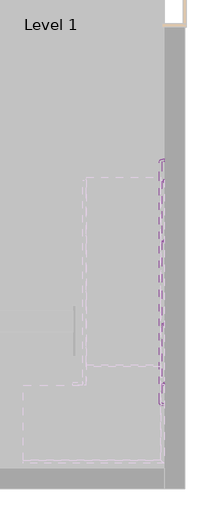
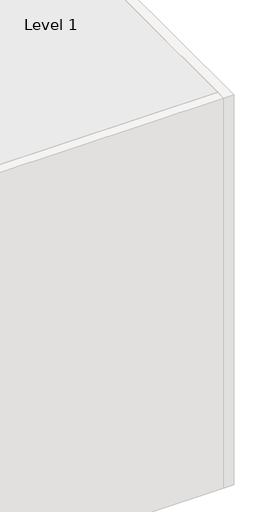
# One storey, part 21 of 27: 1 railing.
"""IFC4 building model written with IfcOpenShell, lengths in millimetres."""

from ifc_helpers import new_model, si_unit, point, frame, frame_2d, origin, place, context, project, spatial, circle_curve, ellipse_curve, trimmed, segment, composite_curve, outline, extrude, element, save
from ifc_brep_helpers import plane_surface, cylinder_surface, revolved_surface, advanced_brep

model = new_model("IFC4")

# Units and contexts
model_context = context("Model", 3, world=origin())
ifc_project = project(units=[si_unit("LENGTHUNIT", "METRE", prefix="MILLI")], contexts=[model_context])

# Site, building, storey
site = spatial("IfcSite", under=ifc_project)
building = spatial("IfcBuilding", under=site)
storey = spatial("IfcBuildingStorey", under=building, Name="Level 1", Elevation=0.0)

# Railing
placement = place(None, origin())
element("IfcRailing", 1, ObjectType="Handrail - Pipe - Wall-Ramp", at=placement, inside=storey, context=model_context, shape_type="SolidModel", body=[
    advanced_brep(
    [(56623.7173382, -22282.0387746, 6597.3444752), (56661.8173382, -22282.0387746, 6597.3444752), (56623.7173382, -19265.7006057, 8491.9039863), (56661.8173382, -19265.7006057, 8491.9039863)],
    [
        (0, 1, ellipse_curve(frame((56642.7673382, -22282.0387746, 6597.3444752), z_axis=(0.0, -1.0, 0.0), x_axis=(0.0, 0.0, -1.0)), 22.496014, 19.05)),
        (1, 0, ellipse_curve(frame((56642.7673382, -22282.0387746, 6597.3444752), z_axis=(0.0, -1.0, 0.0), x_axis=(0.0, 0.0, -1.0)), 22.496014, 19.05)),
        (2, 3, ellipse_curve(frame((56642.7673382, -19265.7006057, 8491.9039863), z_axis=(0.0, 1.0, 0.0), x_axis=(0.0, 0.0, -1.0)), 22.496014, 19.05)),
        (3, 2, ellipse_curve(frame((56642.7673382, -19265.7006057, 8491.9039863), z_axis=(0.0, 1.0, 0.0), x_axis=(0.0, 0.0, -1.0)), 22.496014, 19.05)),
        (0, 2),
        (3, 1),
    ],
    [
        plane_surface(frame((56642.7673382, -22282.0387746, 6619.8404892), z_axis=(0.0, -1.0, 0.0), x_axis=(0.0, 0.0, 1.0))),
        plane_surface(frame((56642.7673382, -19265.7006057, 8514.4000003), z_axis=(0.0, 1.0, 0.0), x_axis=(0.0, 0.0, 1.0))),
        cylinder_surface(frame((56642.7673382, -22271.9063681, 6603.7086314), z_axis=(0.0, -0.8468166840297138, -0.5318848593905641), x_axis=(1.0, 0.0, 0.0)), 19.05),
    ],
    [
        (0, [[1, 2]]),
        (1, [[3, 4]]),
        (2, [[-1, 5, -4, 6]]),
        (2, [[-2, -6, -3, -5]]),
    ],
),
    advanced_brep(
    [(56642.7173382, -20170.6196902, 7935.959501), (56642.7173382, -20157.9196902, 7935.959501), (56642.7173382, -20170.6196902, 7878.809501), (56642.7173382, -20157.9196902, 7878.809501), (56661.7673382, -20157.9196902, 7859.759501), (56661.7673382, -20170.6196902, 7859.759501), (56690.3423382, -20170.6196902, 7859.759501), (56690.3423382, -20157.9196902, 7859.759501)],
    [
        (0, 1, circle_curve(frame((56642.7173382, -20164.2696902, 7935.959501), z_axis=(0.0, 0.0, 1.0), x_axis=(0.0, 1.0, 0.0)), 6.35)),
        (1, 0, circle_curve(frame((56642.7173382, -20164.2696902, 7935.959501), z_axis=(0.0, 0.0, 1.0), x_axis=(0.0, 1.0, 0.0)), 6.35)),
        (0, 2),
        (2, 3, circle_curve(frame((56642.7173382, -20164.2696902, 7878.809501), z_axis=(0.0, 0.0, 1.0), x_axis=(0.0, 1.0, 0.0)), 6.35)),
        (3, 1),
        (3, 2, circle_curve(frame((56642.7173382, -20164.2696902, 7878.809501), z_axis=(0.0, 0.0, 1.0), x_axis=(0.0, 1.0, 0.0)), 6.35)),
        (4, 3, circle_curve(frame((56661.7673382, -20157.9196902, 7878.809501), z_axis=(0.0, 1.0, 0.0), x_axis=(-1.0, 0.0, 0.0)), 19.05)),
        (2, 5, circle_curve(frame((56661.7673382, -20170.6196902, 7878.809501), z_axis=(0.0, -1.0, 0.0), x_axis=(-1.0, 0.0, 0.0)), 19.05)),
        (5, 4, circle_curve(frame((56661.7673382, -20164.2696902, 7859.759501), z_axis=(-1.0, 0.0, 0.0), x_axis=(0.0, 1.0, 0.0)), 6.35)),
        (4, 5, circle_curve(frame((56661.7673382, -20164.2696902, 7859.759501), z_axis=(-1.0, 0.0, 0.0), x_axis=(0.0, 1.0, 0.0)), 6.35)),
        (6, 7, circle_curve(frame((56690.3423382, -20164.2696902, 7859.759501), z_axis=(1.0, 0.0, 0.0), x_axis=(0.0, 1.0, 0.0)), 6.35)),
        (7, 6, circle_curve(frame((56690.3423382, -20164.2696902, 7859.759501), z_axis=(1.0, 0.0, 0.0), x_axis=(0.0, 1.0, 0.0)), 6.35)),
        (5, 6),
        (7, 4),
    ],
    [
        plane_surface(frame((56642.7173382, -20157.9196902, 7935.959501), z_axis=(0.0, 0.0, 1.0), x_axis=(1.0, 0.0, 0.0))),
        cylinder_surface(frame((56642.7173382, -20164.2696902, 7935.959501), z_axis=(0.0, 0.0, 1.0), x_axis=(0.0, 1.0, 0.0)), 6.35),
        revolved_surface(trimmed(ellipse_curve(frame((56642.7173382, -20164.2696902, 7878.809501), z_axis=(0.0, 0.0, 1.0), x_axis=(0.0, 1.0, 0.0)), 6.35, 6.35), [point((56642.7173382, -20170.6196902, 7878.809501))], [point((56642.7173382, -20157.9196902, 7878.809501))], True, "CARTESIAN"), (56661.7673382, -20164.2696902, 7878.809501), (0.0, -1.0, 0.0)),
        revolved_surface(trimmed(ellipse_curve(frame((56642.7173382, -20164.2696902, 7878.809501), z_axis=(0.0, 0.0, 1.0), x_axis=(0.0, 1.0, 0.0)), 6.35, 6.35), [point((56642.7173382, -20157.9196902, 7878.809501))], [point((56642.7173382, -20170.6196902, 7878.809501))], True, "CARTESIAN"), (56661.7673382, -20164.2696902, 7878.809501), (0.0, -1.0, 0.0)),
        plane_surface(frame((56690.3423382, -20164.2696902, 7853.409501), z_axis=(1.0, 0.0, 0.0), x_axis=(0.0, 1.0, 0.0))),
        cylinder_surface(frame((56661.7673382, -20164.2696902, 7859.759501), z_axis=(-1.0, 0.0, 0.0), x_axis=(0.0, 1.0, 0.0)), 6.35),
    ],
    [
        (0, [[1, 2]]),
        (1, [[-1, 3, 4, 5]]),
        (1, [[-2, -5, 6, -3]]),
        (2, [[7, -4, 8, 9]]),
        (3, [[-8, -6, -7, 10]]),
        (4, [[11, 12]]),
        (5, [[-9, 13, -12, 14]]),
        (5, [[-10, -14, -11, -13]]),
    ],
),
    extrude(outline(composite_curve([segment(trimmed(circle_curve(frame_2d((-20164.2696902, 7859.759501)), 25.4), [point((-20138.8696902, 7859.759501))], [point((-20189.6696902, 7859.759501))], False, "CARTESIAN"), True, "CONTINUOUS"), segment(trimmed(circle_curve(frame_2d((-20164.2696902, 7859.759501)), 25.4), [point((-20189.6696902, 7859.759501))], [point((-20138.8696902, 7859.759501))], False, "CARTESIAN"), True, "CONTINUOUS")], self_intersect=False)), frame((56690.3423382, 0.0, 0.0), z_axis=(1.0, 0.0, 0.0), x_axis=(0.0, 1.0, 0.0)), (0.0, 0.0, 1.0), 9.525),
    advanced_brep(
    [(56642.7173382, -21389.8196902, 7170.1809886), (56642.7173382, -21377.1196902, 7170.1809886), (56642.7173382, -21389.8196902, 7113.0309886), (56642.7173382, -21377.1196902, 7113.0309886), (56661.7673382, -21377.1196902, 7093.9809886), (56661.7673382, -21389.8196902, 7093.9809886), (56690.3423382, -21389.8196902, 7093.9809886), (56690.3423382, -21377.1196902, 7093.9809886)],
    [
        (0, 1, circle_curve(frame((56642.7173382, -21383.4696902, 7170.1809886), z_axis=(0.0, 0.0, 1.0), x_axis=(0.0, 1.0, 0.0)), 6.35)),
        (1, 0, circle_curve(frame((56642.7173382, -21383.4696902, 7170.1809886), z_axis=(0.0, 0.0, 1.0), x_axis=(0.0, 1.0, 0.0)), 6.35)),
        (0, 2),
        (2, 3, circle_curve(frame((56642.7173382, -21383.4696902, 7113.0309886), z_axis=(0.0, 0.0, 1.0), x_axis=(0.0, 1.0, 0.0)), 6.35)),
        (3, 1),
        (3, 2, circle_curve(frame((56642.7173382, -21383.4696902, 7113.0309886), z_axis=(0.0, 0.0, 1.0), x_axis=(0.0, 1.0, 0.0)), 6.35)),
        (4, 3, circle_curve(frame((56661.7673382, -21377.1196902, 7113.0309886), z_axis=(0.0, 1.0, 0.0), x_axis=(-1.0, 0.0, 0.0)), 19.05)),
        (2, 5, circle_curve(frame((56661.7673382, -21389.8196902, 7113.0309886), z_axis=(0.0, -1.0, 0.0), x_axis=(-1.0, 0.0, 0.0)), 19.05)),
        (5, 4, circle_curve(frame((56661.7673382, -21383.4696902, 7093.9809886), z_axis=(-1.0, 0.0, 0.0), x_axis=(0.0, 1.0, 0.0)), 6.35)),
        (4, 5, circle_curve(frame((56661.7673382, -21383.4696902, 7093.9809886), z_axis=(-1.0, 0.0, 0.0), x_axis=(0.0, 1.0, 0.0)), 6.35)),
        (6, 7, circle_curve(frame((56690.3423382, -21383.4696902, 7093.9809886), z_axis=(1.0, 0.0, 0.0), x_axis=(0.0, 1.0, 0.0)), 6.35)),
        (7, 6, circle_curve(frame((56690.3423382, -21383.4696902, 7093.9809886), z_axis=(1.0, 0.0, 0.0), x_axis=(0.0, 1.0, 0.0)), 6.35)),
        (5, 6),
        (7, 4),
    ],
    [
        plane_surface(frame((56642.7173382, -21377.1196902, 7170.1809886), z_axis=(0.0, 0.0, 1.0), x_axis=(1.0, 0.0, 0.0))),
        cylinder_surface(frame((56642.7173382, -21383.4696902, 7170.1809886), z_axis=(0.0, 0.0, 1.0), x_axis=(0.0, 1.0, 0.0)), 6.35),
        revolved_surface(trimmed(ellipse_curve(frame((56642.7173382, -21383.4696902, 7113.0309886), z_axis=(0.0, 0.0, 1.0), x_axis=(0.0, 1.0, 0.0)), 6.35, 6.35), [point((56642.7173382, -21389.8196902, 7113.0309886))], [point((56642.7173382, -21377.1196902, 7113.0309886))], True, "CARTESIAN"), (56661.7673382, -21383.4696902, 7113.0309886), (0.0, -1.0, 0.0)),
        revolved_surface(trimmed(ellipse_curve(frame((56642.7173382, -21383.4696902, 7113.0309886), z_axis=(0.0, 0.0, 1.0), x_axis=(0.0, 1.0, 0.0)), 6.35, 6.35), [point((56642.7173382, -21377.1196902, 7113.0309886))], [point((56642.7173382, -21389.8196902, 7113.0309886))], True, "CARTESIAN"), (56661.7673382, -21383.4696902, 7113.0309886), (0.0, -1.0, 0.0)),
        plane_surface(frame((56690.3423382, -21383.4696902, 7087.6309886), z_axis=(1.0, 0.0, 0.0), x_axis=(0.0, 1.0, 0.0))),
        cylinder_surface(frame((56661.7673382, -21383.4696902, 7093.9809886), z_axis=(-1.0, 0.0, 0.0), x_axis=(0.0, 1.0, 0.0)), 6.35),
    ],
    [
        (0, [[1, 2]]),
        (1, [[-1, 3, 4, 5]]),
        (1, [[-2, -5, 6, -3]]),
        (2, [[7, -4, 8, 9]]),
        (3, [[-8, -6, -7, 10]]),
        (4, [[11, 12]]),
        (5, [[-9, 13, -12, 14]]),
        (5, [[-10, -14, -11, -13]]),
    ],
),
    extrude(outline(composite_curve([segment(trimmed(circle_curve(frame_2d((-21383.4696902, 7093.9809886)), 25.4), [point((-21358.0696902, 7093.9809886))], [point((-21408.8696902, 7093.9809886))], False, "CARTESIAN"), True, "CONTINUOUS"), segment(trimmed(circle_curve(frame_2d((-21383.4696902, 7093.9809886)), 25.4), [point((-21408.8696902, 7093.9809886))], [point((-21358.0696902, 7093.9809886))], False, "CARTESIAN"), True, "CONTINUOUS")], self_intersect=False)), frame((56690.3423382, 0.0, 0.0), z_axis=(1.0, 0.0, 0.0), x_axis=(0.0, 1.0, 0.0)), (0.0, 0.0, 1.0), 9.525),
    advanced_brep(
    [(56661.7673382, -19278.4006057, 8490.3731408), (56623.6673382, -19278.4006057, 8490.3731408), (56661.7673382, -19011.7006057, 8490.3731408), (56623.6673382, -19011.7006057, 8490.3731408), (56699.8673382, -18992.6506057, 8490.3731408), (56699.8673382, -18954.5506057, 8490.3731408), (56680.8173382, -18954.5506057, 8490.3731408), (56680.8173382, -18992.6506057, 8490.3731408)],
    [
        (0, 1, circle_curve(frame((56642.7173382, -19278.4006057, 8490.3731408), z_axis=(0.0, -1.0, 0.0), x_axis=(-1.0, 0.0, 0.0)), 19.05)),
        (1, 0, circle_curve(frame((56642.7173382, -19278.4006057, 8490.3731408), z_axis=(0.0, -1.0, 0.0), x_axis=(-1.0, 0.0, 0.0)), 19.05)),
        (0, 2),
        (2, 3, circle_curve(frame((56642.7173382, -19011.7006057, 8490.3731408), z_axis=(0.0, -1.0, 0.0), x_axis=(-1.0, 0.0, 0.0)), 19.05)),
        (3, 1),
        (3, 2, circle_curve(frame((56642.7173382, -19011.7006057, 8490.3731408), z_axis=(0.0, -1.0, 0.0), x_axis=(-1.0, 0.0, 0.0)), 19.05)),
        (4, 5, circle_curve(frame((56699.8673382, -18973.6006057, 8490.3731408), z_axis=(1.0, 0.0, 0.0), x_axis=(0.0, 1.0, 0.0)), 19.05)),
        (5, 4, circle_curve(frame((56699.8673382, -18973.6006057, 8490.3731408), z_axis=(1.0, 0.0, 0.0), x_axis=(0.0, 1.0, 0.0)), 19.05)),
        (6, 7, circle_curve(frame((56680.8173382, -18973.6006057, 8490.3731408), z_axis=(1.0, 0.0, 0.0), x_axis=(0.0, 1.0, 0.0)), 19.05)),
        (7, 4),
        (5, 6),
        (7, 6, circle_curve(frame((56680.8173382, -18973.6006057, 8490.3731408), z_axis=(1.0, 0.0, 0.0), x_axis=(0.0, 1.0, 0.0)), 19.05)),
        (6, 3, circle_curve(frame((56680.8173382, -19011.7006057, 8490.3731408), z_axis=(0.0, 0.0, 1.0), x_axis=(-1.0, 0.0, 0.0)), 57.15)),
        (2, 7, circle_curve(frame((56680.8173382, -19011.7006057, 8490.3731408), z_axis=(0.0, 0.0, -1.0), x_axis=(-1.0, 0.0, 0.0)), 19.05)),
    ],
    [
        plane_surface(frame((56642.7173382, -19278.4006057, 8490.3731408), z_axis=(0.0, -1.0, 0.0), x_axis=(0.0, 0.0, 1.0))),
        cylinder_surface(frame((56642.7173382, -19278.4006057, 8490.3731408), z_axis=(0.0, -1.0, 0.0), x_axis=(-1.0, 0.0, 0.0)), 19.05),
        plane_surface(frame((56699.8673382, -18973.6006057, 8490.3731408), z_axis=(1.0, 0.0, 0.0), x_axis=(0.0, 0.0, 1.0))),
        cylinder_surface(frame((56680.8173382, -18973.6006057, 8490.3731408), z_axis=(-1.0, 0.0, 0.0), x_axis=(0.0, 1.0, 0.0)), 19.05),
        revolved_surface(trimmed(ellipse_curve(frame((56642.7173382, -19011.7006057, 8490.3731408), z_axis=(0.0, -1.0, 0.0), x_axis=(-1.0, 0.0, 0.0)), 19.05, 19.05), [point((56661.7673382, -19011.7006057, 8490.3731408))], [point((56623.6673382, -19011.7006057, 8490.3731408))], True, "CARTESIAN"), (56680.8173382, -19011.7006057, 8490.3731408), (0.0, 0.0, -1.0)),
        revolved_surface(trimmed(ellipse_curve(frame((56642.7173382, -19011.7006057, 8490.3731408), z_axis=(0.0, -1.0, 0.0), x_axis=(-1.0, 0.0, 0.0)), 19.05, 19.05), [point((56623.6673382, -19011.7006057, 8490.3731408))], [point((56661.7673382, -19011.7006057, 8490.3731408))], True, "CARTESIAN"), (56680.8173382, -19011.7006057, 8490.3731408), (0.0, 0.0, -1.0)),
    ],
    [
        (0, [[1, 2]]),
        (1, [[-1, 3, 4, 5]]),
        (1, [[-2, -5, 6, -3]]),
        (2, [[7, 8]]),
        (3, [[9, 10, -8, 11]]),
        (3, [[12, -11, -7, -10]]),
        (4, [[13, -4, 14, -9]]),
        (5, [[-14, -6, -13, -12]]),
    ],
),
    advanced_brep(
    [(56690.3423382, -19278.4006057, 8407.8231408), (56690.3423382, -19278.4006057, 8420.5231408), (56661.7673382, -19278.4006057, 8407.8231408), (56661.7673382, -19278.4006057, 8420.5231408), (56636.3673382, -19278.4006057, 8490.3731408), (56649.0673382, -19278.4006057, 8490.3731408), (56649.0673382, -19278.4006057, 8433.2231408), (56636.3673382, -19278.4006057, 8433.2231408)],
    [
        (0, 1, circle_curve(frame((56690.3423382, -19278.4006057, 8414.1731408), z_axis=(1.0, 0.0, 0.0), x_axis=(0.0, 0.0, 1.0)), 6.35)),
        (1, 0, circle_curve(frame((56690.3423382, -19278.4006057, 8414.1731408), z_axis=(1.0, 0.0, 0.0), x_axis=(0.0, 0.0, 1.0)), 6.35)),
        (0, 2),
        (2, 3, circle_curve(frame((56661.7673382, -19278.4006057, 8414.1731408), z_axis=(1.0, 0.0, 0.0), x_axis=(0.0, 0.0, 1.0)), 6.35)),
        (3, 1),
        (3, 2, circle_curve(frame((56661.7673382, -19278.4006057, 8414.1731408), z_axis=(1.0, 0.0, 0.0), x_axis=(0.0, 0.0, 1.0)), 6.35)),
        (4, 5, circle_curve(frame((56642.7173382, -19278.4006057, 8490.3731408), z_axis=(0.0, 0.0, 1.0), x_axis=(1.0, 0.0, 0.0)), 6.35)),
        (5, 4, circle_curve(frame((56642.7173382, -19278.4006057, 8490.3731408), z_axis=(0.0, 0.0, 1.0), x_axis=(1.0, 0.0, 0.0)), 6.35)),
        (6, 7, circle_curve(frame((56642.7173382, -19278.4006057, 8433.2231408), z_axis=(0.0, 0.0, 1.0), x_axis=(1.0, 0.0, 0.0)), 6.35)),
        (7, 4),
        (5, 6),
        (7, 6, circle_curve(frame((56642.7173382, -19278.4006057, 8433.2231408), z_axis=(0.0, 0.0, 1.0), x_axis=(1.0, 0.0, 0.0)), 6.35)),
        (6, 3, circle_curve(frame((56661.7673382, -19278.4006057, 8433.2231408), z_axis=(0.0, -1.0, 0.0), x_axis=(0.0, 0.0, -1.0)), 12.7)),
        (2, 7, circle_curve(frame((56661.7673382, -19278.4006057, 8433.2231408), z_axis=(0.0, 1.0, 0.0), x_axis=(0.0, 0.0, -1.0)), 25.4)),
    ],
    [
        plane_surface(frame((56690.3423382, -19278.4006057, 8414.1731408), z_axis=(1.0, 0.0, 0.0), x_axis=(0.0, 1.0, 0.0))),
        cylinder_surface(frame((56690.3423382, -19278.4006057, 8414.1731408), z_axis=(1.0, 0.0, 0.0), x_axis=(0.0, 0.0, 1.0)), 6.35),
        plane_surface(frame((56642.7173382, -19278.4006057, 8490.3731408), z_axis=(0.0, 0.0, 1.0), x_axis=(0.0, 1.0, 0.0))),
        cylinder_surface(frame((56642.7173382, -19278.4006057, 8433.2231408), z_axis=(0.0, 0.0, -1.0), x_axis=(1.0, 0.0, 0.0)), 6.35),
        revolved_surface(trimmed(ellipse_curve(frame((56661.7673382, -19278.4006057, 8414.1731408), z_axis=(1.0, 0.0, 0.0), x_axis=(0.0, 0.0, 1.0)), 6.35, 6.35), [point((56661.7673382, -19278.4006057, 8407.8231408))], [point((56661.7673382, -19278.4006057, 8420.5231408))], True, "CARTESIAN"), (56661.7673382, -19278.4006057, 8433.2231408), (0.0, 1.0, 0.0)),
        revolved_surface(trimmed(ellipse_curve(frame((56661.7673382, -19278.4006057, 8414.1731408), z_axis=(1.0, 0.0, 0.0), x_axis=(0.0, 0.0, 1.0)), 6.35, 6.35), [point((56661.7673382, -19278.4006057, 8420.5231408))], [point((56661.7673382, -19278.4006057, 8407.8231408))], True, "CARTESIAN"), (56661.7673382, -19278.4006057, 8433.2231408), (0.0, 1.0, 0.0)),
    ],
    [
        (0, [[1, 2]]),
        (1, [[-1, 3, 4, 5]]),
        (1, [[-2, -5, 6, -3]]),
        (2, [[7, 8]]),
        (3, [[9, 10, -8, 11]]),
        (3, [[12, -11, -7, -10]]),
        (4, [[13, -4, 14, -9]]),
        (5, [[-14, -6, -13, -12]]),
    ],
),
    extrude(outline(composite_curve([segment(trimmed(circle_curve(frame_2d((-19278.4006057, 8414.1731408)), 25.4), [point((-19253.0006057, 8414.1731408))], [point((-19303.8006057, 8414.1731408))], False, "CARTESIAN"), True, "CONTINUOUS"), segment(trimmed(circle_curve(frame_2d((-19278.4006057, 8414.1731408)), 25.4), [point((-19303.8006057, 8414.1731408))], [point((-19253.0006057, 8414.1731408))], False, "CARTESIAN"), True, "CONTINUOUS")], self_intersect=False)), frame((56690.3423382, 0.0, 0.0), z_axis=(1.0, 0.0, 0.0), x_axis=(0.0, 1.0, 0.0)), (0.0, 0.0, 1.0), 9.525),
    advanced_brep(
    [(56699.8673382, -22555.0887746, 6611.7673487), (56699.8673382, -22593.1887746, 6611.7673487), (56680.8173382, -22555.0887746, 6611.7673487), (56680.8173382, -22593.1887746, 6611.7673487), (56623.6673382, -22536.0387746, 6611.7673487), (56661.7673382, -22536.0387746, 6611.7673487), (56661.7673382, -22269.3387746, 6611.7673487), (56623.6673382, -22269.3387746, 6611.7673487)],
    [
        (0, 1, circle_curve(frame((56699.8673382, -22574.1387746, 6611.7673487), z_axis=(1.0, 0.0, 0.0), x_axis=(0.0, -1.0, 0.0)), 19.05)),
        (1, 0, circle_curve(frame((56699.8673382, -22574.1387746, 6611.7673487), z_axis=(1.0, 0.0, 0.0), x_axis=(0.0, -1.0, 0.0)), 19.05)),
        (0, 2),
        (2, 3, circle_curve(frame((56680.8173382, -22574.1387746, 6611.7673487), z_axis=(1.0, 0.0, 0.0), x_axis=(0.0, -1.0, 0.0)), 19.05)),
        (3, 1),
        (3, 2, circle_curve(frame((56680.8173382, -22574.1387746, 6611.7673487), z_axis=(1.0, 0.0, 0.0), x_axis=(0.0, -1.0, 0.0)), 19.05)),
        (4, 3, circle_curve(frame((56680.8173382, -22536.0387746, 6611.7673487), z_axis=(0.0, 0.0, 1.0), x_axis=(0.0, -1.0, 0.0)), 57.15)),
        (2, 5, circle_curve(frame((56680.8173382, -22536.0387746, 6611.7673487), z_axis=(0.0, 0.0, -1.0), x_axis=(0.0, -1.0, 0.0)), 19.05)),
        (5, 4, circle_curve(frame((56642.7173382, -22536.0387746, 6611.7673487), z_axis=(0.0, -1.0, 0.0), x_axis=(-1.0, 0.0, 0.0)), 19.05)),
        (4, 5, circle_curve(frame((56642.7173382, -22536.0387746, 6611.7673487), z_axis=(0.0, -1.0, 0.0), x_axis=(-1.0, 0.0, 0.0)), 19.05)),
        (6, 7, circle_curve(frame((56642.7173382, -22269.3387746, 6611.7673487), z_axis=(0.0, 1.0, 0.0), x_axis=(-1.0, 0.0, 0.0)), 19.05)),
        (7, 6, circle_curve(frame((56642.7173382, -22269.3387746, 6611.7673487), z_axis=(0.0, 1.0, 0.0), x_axis=(-1.0, 0.0, 0.0)), 19.05)),
        (5, 6),
        (7, 4),
    ],
    [
        plane_surface(frame((56699.8673382, -22574.1387746, 6611.7673487), z_axis=(1.0, 0.0, 0.0), x_axis=(0.0, 0.0, 1.0))),
        cylinder_surface(frame((56699.8673382, -22574.1387746, 6611.7673487), z_axis=(1.0, 0.0, 0.0), x_axis=(0.0, -1.0, 0.0)), 19.05),
        revolved_surface(trimmed(ellipse_curve(frame((56680.8173382, -22574.1387746, 6611.7673487), z_axis=(1.0, 0.0, 0.0), x_axis=(0.0, -1.0, 0.0)), 19.05, 19.05), [point((56680.8173382, -22555.0887746, 6611.7673487))], [point((56680.8173382, -22593.1887746, 6611.7673487))], True, "CARTESIAN"), (56680.8173382, -22536.0387746, 6611.7673487), (0.0, 0.0, -1.0)),
        revolved_surface(trimmed(ellipse_curve(frame((56680.8173382, -22574.1387746, 6611.7673487), z_axis=(1.0, 0.0, 0.0), x_axis=(0.0, -1.0, 0.0)), 19.05, 19.05), [point((56680.8173382, -22593.1887746, 6611.7673487))], [point((56680.8173382, -22555.0887746, 6611.7673487))], True, "CARTESIAN"), (56680.8173382, -22536.0387746, 6611.7673487), (0.0, 0.0, -1.0)),
        plane_surface(frame((56642.7173382, -22269.3387746, 6611.7673487), z_axis=(0.0, 1.0, 0.0), x_axis=(0.0, 0.0, 1.0))),
        cylinder_surface(frame((56642.7173382, -22536.0387746, 6611.7673487), z_axis=(0.0, -1.0, 0.0), x_axis=(-1.0, 0.0, 0.0)), 19.05),
    ],
    [
        (0, [[1, 2]]),
        (1, [[-1, 3, 4, 5]]),
        (1, [[-2, -5, 6, -3]]),
        (2, [[7, -4, 8, 9]]),
        (3, [[-8, -6, -7, 10]]),
        (4, [[11, 12]]),
        (5, [[-9, 13, -12, 14]]),
        (5, [[-10, -14, -11, -13]]),
    ],
),
    advanced_brep(
    [(56690.3423382, -22269.3387746, 6529.2173487), (56690.3423382, -22269.3387746, 6541.9173487), (56661.7673382, -22269.3387746, 6529.2173487), (56661.7673382, -22269.3387746, 6541.9173487), (56649.0673382, -22269.3387746, 6554.6173487), (56636.3673382, -22269.3387746, 6554.6173487), (56636.3673382, -22269.3387746, 6611.7673487), (56649.0673382, -22269.3387746, 6611.7673487)],
    [
        (0, 1, circle_curve(frame((56690.3423382, -22269.3387746, 6535.5673487), z_axis=(1.0, 0.0, 0.0), x_axis=(0.0, 0.0, 1.0)), 6.35)),
        (1, 0, circle_curve(frame((56690.3423382, -22269.3387746, 6535.5673487), z_axis=(1.0, 0.0, 0.0), x_axis=(0.0, 0.0, 1.0)), 6.35)),
        (0, 2),
        (2, 3, circle_curve(frame((56661.7673382, -22269.3387746, 6535.5673487), z_axis=(1.0, 0.0, 0.0), x_axis=(0.0, 0.0, 1.0)), 6.35)),
        (3, 1),
        (3, 2, circle_curve(frame((56661.7673382, -22269.3387746, 6535.5673487), z_axis=(1.0, 0.0, 0.0), x_axis=(0.0, 0.0, 1.0)), 6.35)),
        (4, 3, circle_curve(frame((56661.7673382, -22269.3387746, 6554.6173487), z_axis=(0.0, -1.0, 0.0), x_axis=(0.0, 0.0, -1.0)), 12.7)),
        (2, 5, circle_curve(frame((56661.7673382, -22269.3387746, 6554.6173487), z_axis=(0.0, 1.0, 0.0), x_axis=(0.0, 0.0, -1.0)), 25.4)),
        (5, 4, circle_curve(frame((56642.7173382, -22269.3387746, 6554.6173487), z_axis=(0.0, 0.0, -1.0), x_axis=(1.0, 0.0, 0.0)), 6.35)),
        (4, 5, circle_curve(frame((56642.7173382, -22269.3387746, 6554.6173487), z_axis=(0.0, 0.0, -1.0), x_axis=(1.0, 0.0, 0.0)), 6.35)),
        (6, 7, circle_curve(frame((56642.7173382, -22269.3387746, 6611.7673487), z_axis=(0.0, 0.0, 1.0), x_axis=(1.0, 0.0, 0.0)), 6.35)),
        (7, 6, circle_curve(frame((56642.7173382, -22269.3387746, 6611.7673487), z_axis=(0.0, 0.0, 1.0), x_axis=(1.0, 0.0, 0.0)), 6.35)),
        (5, 6),
        (7, 4),
    ],
    [
        plane_surface(frame((56690.3423382, -22269.3387746, 6535.5673487), z_axis=(1.0, 0.0, 0.0), x_axis=(0.0, 1.0, 0.0))),
        cylinder_surface(frame((56690.3423382, -22269.3387746, 6535.5673487), z_axis=(1.0, 0.0, 0.0), x_axis=(0.0, 0.0, 1.0)), 6.35),
        revolved_surface(trimmed(ellipse_curve(frame((56661.7673382, -22269.3387746, 6535.5673487), z_axis=(1.0, 0.0, 0.0), x_axis=(0.0, 0.0, 1.0)), 6.35, 6.35), [point((56661.7673382, -22269.3387746, 6529.2173487))], [point((56661.7673382, -22269.3387746, 6541.9173487))], True, "CARTESIAN"), (56661.7673382, -22269.3387746, 6554.6173487), (0.0, 1.0, 0.0)),
        revolved_surface(trimmed(ellipse_curve(frame((56661.7673382, -22269.3387746, 6535.5673487), z_axis=(1.0, 0.0, 0.0), x_axis=(0.0, 0.0, 1.0)), 6.35, 6.35), [point((56661.7673382, -22269.3387746, 6541.9173487))], [point((56661.7673382, -22269.3387746, 6529.2173487))], True, "CARTESIAN"), (56661.7673382, -22269.3387746, 6554.6173487), (0.0, 1.0, 0.0)),
        plane_surface(frame((56642.7173382, -22269.3387746, 6611.7673487), z_axis=(0.0, 0.0, 1.0), x_axis=(0.0, 1.0, 0.0))),
        cylinder_surface(frame((56642.7173382, -22269.3387746, 6554.6173487), z_axis=(0.0, 0.0, -1.0), x_axis=(1.0, 0.0, 0.0)), 6.35),
    ],
    [
        (0, [[1, 2]]),
        (1, [[-1, 3, 4, 5]]),
        (1, [[-2, -5, 6, -3]]),
        (2, [[7, -4, 8, 9]]),
        (3, [[-8, -6, -7, 10]]),
        (4, [[11, 12]]),
        (5, [[-9, 13, -12, 14]]),
        (5, [[-10, -14, -11, -13]]),
    ],
),
    extrude(outline(composite_curve([segment(trimmed(circle_curve(frame_2d((-22269.3387746, 6535.5673487)), 25.4), [point((-22243.9387746, 6535.5673487))], [point((-22294.7387746, 6535.5673487))], False, "CARTESIAN"), True, "CONTINUOUS"), segment(trimmed(circle_curve(frame_2d((-22269.3387746, 6535.5673487)), 25.4), [point((-22294.7387746, 6535.5673487))], [point((-22243.9387746, 6535.5673487))], False, "CARTESIAN"), True, "CONTINUOUS")], self_intersect=False)), frame((56690.3423382, 0.0, 0.0), z_axis=(1.0, 0.0, 0.0), x_axis=(0.0, 1.0, 0.0)), (0.0, 0.0, 1.0), 9.525),
    advanced_brep(
    [(56623.7173382, -22282.0387746, 2797.3444749), (56661.8173382, -22282.0387746, 2797.3444749), (56623.7173382, -19265.7006057, 4691.903986), (56661.8173382, -19265.7006057, 4691.903986)],
    [
        (0, 1, ellipse_curve(frame((56642.7673382, -22282.0387746, 2797.3444749), z_axis=(0.0, -1.0, 0.0), x_axis=(0.0, 0.0, -1.0)), 22.496014, 19.05)),
        (1, 0, ellipse_curve(frame((56642.7673382, -22282.0387746, 2797.3444749), z_axis=(0.0, -1.0, 0.0), x_axis=(0.0, 0.0, -1.0)), 22.496014, 19.05)),
        (2, 3, ellipse_curve(frame((56642.7673382, -19265.7006057, 4691.903986), z_axis=(0.0, 1.0, 0.0), x_axis=(0.0, 0.0, -1.0)), 22.496014, 19.05)),
        (3, 2, ellipse_curve(frame((56642.7673382, -19265.7006057, 4691.903986), z_axis=(0.0, 1.0, 0.0), x_axis=(0.0, 0.0, -1.0)), 22.496014, 19.05)),
        (0, 2),
        (3, 1),
    ],
    [
        plane_surface(frame((56642.7673382, -22282.0387746, 2819.8404889), z_axis=(0.0, -1.0, 0.0), x_axis=(0.0, 0.0, 1.0))),
        plane_surface(frame((56642.7673382, -19265.7006057, 4714.4), z_axis=(0.0, 1.0, 0.0), x_axis=(0.0, 0.0, 1.0))),
        cylinder_surface(frame((56642.7673382, -22271.9063681, 2803.7086311), z_axis=(0.0, -0.8468166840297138, -0.5318848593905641), x_axis=(1.0, 0.0, 0.0)), 19.05),
    ],
    [
        (0, [[1, 2]]),
        (1, [[3, 4]]),
        (2, [[-1, 5, -4, 6]]),
        (2, [[-2, -6, -3, -5]]),
    ],
),
    advanced_brep(
    [(56642.7173382, -20170.6196902, 4135.9595007), (56642.7173382, -20157.9196902, 4135.9595007), (56642.7173382, -20170.6196902, 4078.8095007), (56642.7173382, -20157.9196902, 4078.8095007), (56661.7673382, -20157.9196902, 4059.7595007), (56661.7673382, -20170.6196902, 4059.7595007), (56690.3423382, -20170.6196902, 4059.7595007), (56690.3423382, -20157.9196902, 4059.7595007)],
    [
        (0, 1, circle_curve(frame((56642.7173382, -20164.2696902, 4135.9595007), z_axis=(0.0, 0.0, 1.0), x_axis=(0.0, 1.0, 0.0)), 6.35)),
        (1, 0, circle_curve(frame((56642.7173382, -20164.2696902, 4135.9595007), z_axis=(0.0, 0.0, 1.0), x_axis=(0.0, 1.0, 0.0)), 6.35)),
        (0, 2),
        (2, 3, circle_curve(frame((56642.7173382, -20164.2696902, 4078.8095007), z_axis=(0.0, 0.0, 1.0), x_axis=(0.0, 1.0, 0.0)), 6.35)),
        (3, 1),
        (3, 2, circle_curve(frame((56642.7173382, -20164.2696902, 4078.8095007), z_axis=(0.0, 0.0, 1.0), x_axis=(0.0, 1.0, 0.0)), 6.35)),
        (4, 3, circle_curve(frame((56661.7673382, -20157.9196902, 4078.8095007), z_axis=(0.0, 1.0, 0.0), x_axis=(-1.0, 0.0, 0.0)), 19.05)),
        (2, 5, circle_curve(frame((56661.7673382, -20170.6196902, 4078.8095007), z_axis=(0.0, -1.0, 0.0), x_axis=(-1.0, 0.0, 0.0)), 19.05)),
        (5, 4, circle_curve(frame((56661.7673382, -20164.2696902, 4059.7595007), z_axis=(-1.0, 0.0, 0.0), x_axis=(0.0, 1.0, 0.0)), 6.35)),
        (4, 5, circle_curve(frame((56661.7673382, -20164.2696902, 4059.7595007), z_axis=(-1.0, 0.0, 0.0), x_axis=(0.0, 1.0, 0.0)), 6.35)),
        (6, 7, circle_curve(frame((56690.3423382, -20164.2696902, 4059.7595007), z_axis=(1.0, 0.0, 0.0), x_axis=(0.0, 1.0, 0.0)), 6.35)),
        (7, 6, circle_curve(frame((56690.3423382, -20164.2696902, 4059.7595007), z_axis=(1.0, 0.0, 0.0), x_axis=(0.0, 1.0, 0.0)), 6.35)),
        (5, 6),
        (7, 4),
    ],
    [
        plane_surface(frame((56642.7173382, -20157.9196902, 4135.9595007), z_axis=(0.0, 0.0, 1.0), x_axis=(1.0, 0.0, 0.0))),
        cylinder_surface(frame((56642.7173382, -20164.2696902, 4135.9595007), z_axis=(0.0, 0.0, 1.0), x_axis=(0.0, 1.0, 0.0)), 6.35),
        revolved_surface(trimmed(ellipse_curve(frame((56642.7173382, -20164.2696902, 4078.8095007), z_axis=(0.0, 0.0, 1.0), x_axis=(0.0, 1.0, 0.0)), 6.35, 6.35), [point((56642.7173382, -20170.6196902, 4078.8095007))], [point((56642.7173382, -20157.9196902, 4078.8095007))], True, "CARTESIAN"), (56661.7673382, -20164.2696902, 4078.8095007), (0.0, -1.0, 0.0)),
        revolved_surface(trimmed(ellipse_curve(frame((56642.7173382, -20164.2696902, 4078.8095007), z_axis=(0.0, 0.0, 1.0), x_axis=(0.0, 1.0, 0.0)), 6.35, 6.35), [point((56642.7173382, -20157.9196902, 4078.8095007))], [point((56642.7173382, -20170.6196902, 4078.8095007))], True, "CARTESIAN"), (56661.7673382, -20164.2696902, 4078.8095007), (0.0, -1.0, 0.0)),
        plane_surface(frame((56690.3423382, -20164.2696902, 4053.4095007), z_axis=(1.0, 0.0, 0.0), x_axis=(0.0, 1.0, 0.0))),
        cylinder_surface(frame((56661.7673382, -20164.2696902, 4059.7595007), z_axis=(-1.0, 0.0, 0.0), x_axis=(0.0, 1.0, 0.0)), 6.35),
    ],
    [
        (0, [[1, 2]]),
        (1, [[-1, 3, 4, 5]]),
        (1, [[-2, -5, 6, -3]]),
        (2, [[7, -4, 8, 9]]),
        (3, [[-8, -6, -7, 10]]),
        (4, [[11, 12]]),
        (5, [[-9, 13, -12, 14]]),
        (5, [[-10, -14, -11, -13]]),
    ],
),
    extrude(outline(composite_curve([segment(trimmed(circle_curve(frame_2d((-20164.2696902, 4059.7595007)), 25.4), [point((-20138.8696902, 4059.7595007))], [point((-20189.6696902, 4059.7595007))], False, "CARTESIAN"), True, "CONTINUOUS"), segment(trimmed(circle_curve(frame_2d((-20164.2696902, 4059.7595007)), 25.4), [point((-20189.6696902, 4059.7595007))], [point((-20138.8696902, 4059.7595007))], False, "CARTESIAN"), True, "CONTINUOUS")], self_intersect=False)), frame((56690.3423382, 0.0, 0.0), z_axis=(1.0, 0.0, 0.0), x_axis=(0.0, 1.0, 0.0)), (0.0, 0.0, 1.0), 9.525),
    advanced_brep(
    [(56642.7173382, -21389.8196902, 3370.1809883), (56642.7173382, -21377.1196902, 3370.1809883), (56642.7173382, -21389.8196902, 3313.0309883), (56642.7173382, -21377.1196902, 3313.0309883), (56661.7673382, -21377.1196902, 3293.9809883), (56661.7673382, -21389.8196902, 3293.9809883), (56690.3423382, -21389.8196902, 3293.9809883), (56690.3423382, -21377.1196902, 3293.9809883)],
    [
        (0, 1, circle_curve(frame((56642.7173382, -21383.4696902, 3370.1809883), z_axis=(0.0, 0.0, 1.0), x_axis=(0.0, 1.0, 0.0)), 6.35)),
        (1, 0, circle_curve(frame((56642.7173382, -21383.4696902, 3370.1809883), z_axis=(0.0, 0.0, 1.0), x_axis=(0.0, 1.0, 0.0)), 6.35)),
        (0, 2),
        (2, 3, circle_curve(frame((56642.7173382, -21383.4696902, 3313.0309883), z_axis=(0.0, 0.0, 1.0), x_axis=(0.0, 1.0, 0.0)), 6.35)),
        (3, 1),
        (3, 2, circle_curve(frame((56642.7173382, -21383.4696902, 3313.0309883), z_axis=(0.0, 0.0, 1.0), x_axis=(0.0, 1.0, 0.0)), 6.35)),
        (4, 3, circle_curve(frame((56661.7673382, -21377.1196902, 3313.0309883), z_axis=(0.0, 1.0, 0.0), x_axis=(-1.0, 0.0, 0.0)), 19.05)),
        (2, 5, circle_curve(frame((56661.7673382, -21389.8196902, 3313.0309883), z_axis=(0.0, -1.0, 0.0), x_axis=(-1.0, 0.0, 0.0)), 19.05)),
        (5, 4, circle_curve(frame((56661.7673382, -21383.4696902, 3293.9809883), z_axis=(-1.0, 0.0, 0.0), x_axis=(0.0, 1.0, 0.0)), 6.35)),
        (4, 5, circle_curve(frame((56661.7673382, -21383.4696902, 3293.9809883), z_axis=(-1.0, 0.0, 0.0), x_axis=(0.0, 1.0, 0.0)), 6.35)),
        (6, 7, circle_curve(frame((56690.3423382, -21383.4696902, 3293.9809883), z_axis=(1.0, 0.0, 0.0), x_axis=(0.0, 1.0, 0.0)), 6.35)),
        (7, 6, circle_curve(frame((56690.3423382, -21383.4696902, 3293.9809883), z_axis=(1.0, 0.0, 0.0), x_axis=(0.0, 1.0, 0.0)), 6.35)),
        (5, 6),
        (7, 4),
    ],
    [
        plane_surface(frame((56642.7173382, -21377.1196902, 3370.1809883), z_axis=(0.0, 0.0, 1.0), x_axis=(1.0, 0.0, 0.0))),
        cylinder_surface(frame((56642.7173382, -21383.4696902, 3370.1809883), z_axis=(0.0, 0.0, 1.0), x_axis=(0.0, 1.0, 0.0)), 6.35),
        revolved_surface(trimmed(ellipse_curve(frame((56642.7173382, -21383.4696902, 3313.0309883), z_axis=(0.0, 0.0, 1.0), x_axis=(0.0, 1.0, 0.0)), 6.35, 6.35), [point((56642.7173382, -21389.8196902, 3313.0309883))], [point((56642.7173382, -21377.1196902, 3313.0309883))], True, "CARTESIAN"), (56661.7673382, -21383.4696902, 3313.0309883), (0.0, -1.0, 0.0)),
        revolved_surface(trimmed(ellipse_curve(frame((56642.7173382, -21383.4696902, 3313.0309883), z_axis=(0.0, 0.0, 1.0), x_axis=(0.0, 1.0, 0.0)), 6.35, 6.35), [point((56642.7173382, -21377.1196902, 3313.0309883))], [point((56642.7173382, -21389.8196902, 3313.0309883))], True, "CARTESIAN"), (56661.7673382, -21383.4696902, 3313.0309883), (0.0, -1.0, 0.0)),
        plane_surface(frame((56690.3423382, -21383.4696902, 3287.6309883), z_axis=(1.0, 0.0, 0.0), x_axis=(0.0, 1.0, 0.0))),
        cylinder_surface(frame((56661.7673382, -21383.4696902, 3293.9809883), z_axis=(-1.0, 0.0, 0.0), x_axis=(0.0, 1.0, 0.0)), 6.35),
    ],
    [
        (0, [[1, 2]]),
        (1, [[-1, 3, 4, 5]]),
        (1, [[-2, -5, 6, -3]]),
        (2, [[7, -4, 8, 9]]),
        (3, [[-8, -6, -7, 10]]),
        (4, [[11, 12]]),
        (5, [[-9, 13, -12, 14]]),
        (5, [[-10, -14, -11, -13]]),
    ],
),
    extrude(outline(composite_curve([segment(trimmed(circle_curve(frame_2d((-21383.4696902, 3293.9809883)), 25.4), [point((-21358.0696902, 3293.9809883))], [point((-21408.8696902, 3293.9809883))], False, "CARTESIAN"), True, "CONTINUOUS"), segment(trimmed(circle_curve(frame_2d((-21383.4696902, 3293.9809883)), 25.4), [point((-21408.8696902, 3293.9809883))], [point((-21358.0696902, 3293.9809883))], False, "CARTESIAN"), True, "CONTINUOUS")], self_intersect=False)), frame((56690.3423382, 0.0, 0.0), z_axis=(1.0, 0.0, 0.0), x_axis=(0.0, 1.0, 0.0)), (0.0, 0.0, 1.0), 9.525),
    advanced_brep(
    [(56661.7673382, -19278.4006057, 4690.3731405), (56623.6673382, -19278.4006057, 4690.3731405), (56661.7673382, -19011.7006057, 4690.3731405), (56623.6673382, -19011.7006057, 4690.3731405), (56699.8673382, -18992.6506057, 4690.3731405), (56699.8673382, -18954.5506057, 4690.3731405), (56680.8173382, -18954.5506057, 4690.3731405), (56680.8173382, -18992.6506057, 4690.3731405)],
    [
        (0, 1, circle_curve(frame((56642.7173382, -19278.4006057, 4690.3731405), z_axis=(0.0, -1.0, 0.0), x_axis=(-1.0, 0.0, 0.0)), 19.05)),
        (1, 0, circle_curve(frame((56642.7173382, -19278.4006057, 4690.3731405), z_axis=(0.0, -1.0, 0.0), x_axis=(-1.0, 0.0, 0.0)), 19.05)),
        (0, 2),
        (2, 3, circle_curve(frame((56642.7173382, -19011.7006057, 4690.3731405), z_axis=(0.0, -1.0, 0.0), x_axis=(-1.0, 0.0, 0.0)), 19.05)),
        (3, 1),
        (3, 2, circle_curve(frame((56642.7173382, -19011.7006057, 4690.3731405), z_axis=(0.0, -1.0, 0.0), x_axis=(-1.0, 0.0, 0.0)), 19.05)),
        (4, 5, circle_curve(frame((56699.8673382, -18973.6006057, 4690.3731405), z_axis=(1.0, 0.0, 0.0), x_axis=(0.0, 1.0, 0.0)), 19.05)),
        (5, 4, circle_curve(frame((56699.8673382, -18973.6006057, 4690.3731405), z_axis=(1.0, 0.0, 0.0), x_axis=(0.0, 1.0, 0.0)), 19.05)),
        (6, 7, circle_curve(frame((56680.8173382, -18973.6006057, 4690.3731405), z_axis=(1.0, 0.0, 0.0), x_axis=(0.0, 1.0, 0.0)), 19.05)),
        (7, 4),
        (5, 6),
        (7, 6, circle_curve(frame((56680.8173382, -18973.6006057, 4690.3731405), z_axis=(1.0, 0.0, 0.0), x_axis=(0.0, 1.0, 0.0)), 19.05)),
        (6, 3, circle_curve(frame((56680.8173382, -19011.7006057, 4690.3731405), z_axis=(0.0, 0.0, 1.0), x_axis=(-1.0, 0.0, 0.0)), 57.15)),
        (2, 7, circle_curve(frame((56680.8173382, -19011.7006057, 4690.3731405), z_axis=(0.0, 0.0, -1.0), x_axis=(-1.0, 0.0, 0.0)), 19.05)),
    ],
    [
        plane_surface(frame((56642.7173382, -19278.4006057, 4690.3731405), z_axis=(0.0, -1.0, 0.0), x_axis=(0.0, 0.0, 1.0))),
        cylinder_surface(frame((56642.7173382, -19278.4006057, 4690.3731405), z_axis=(0.0, -1.0, 0.0), x_axis=(-1.0, 0.0, 0.0)), 19.05),
        plane_surface(frame((56699.8673382, -18973.6006057, 4690.3731405), z_axis=(1.0, 0.0, 0.0), x_axis=(0.0, 0.0, 1.0))),
        cylinder_surface(frame((56680.8173382, -18973.6006057, 4690.3731405), z_axis=(-1.0, 0.0, 0.0), x_axis=(0.0, 1.0, 0.0)), 19.05),
        revolved_surface(trimmed(ellipse_curve(frame((56642.7173382, -19011.7006057, 4690.3731405), z_axis=(0.0, -1.0, 0.0), x_axis=(-1.0, 0.0, 0.0)), 19.05, 19.05), [point((56661.7673382, -19011.7006057, 4690.3731405))], [point((56623.6673382, -19011.7006057, 4690.3731405))], True, "CARTESIAN"), (56680.8173382, -19011.7006057, 4690.3731405), (0.0, 0.0, -1.0)),
        revolved_surface(trimmed(ellipse_curve(frame((56642.7173382, -19011.7006057, 4690.3731405), z_axis=(0.0, -1.0, 0.0), x_axis=(-1.0, 0.0, 0.0)), 19.05, 19.05), [point((56623.6673382, -19011.7006057, 4690.3731405))], [point((56661.7673382, -19011.7006057, 4690.3731405))], True, "CARTESIAN"), (56680.8173382, -19011.7006057, 4690.3731405), (0.0, 0.0, -1.0)),
    ],
    [
        (0, [[1, 2]]),
        (1, [[-1, 3, 4, 5]]),
        (1, [[-2, -5, 6, -3]]),
        (2, [[7, 8]]),
        (3, [[9, 10, -8, 11]]),
        (3, [[12, -11, -7, -10]]),
        (4, [[13, -4, 14, -9]]),
        (5, [[-14, -6, -13, -12]]),
    ],
),
    advanced_brep(
    [(56690.3423382, -19278.4006057, 4607.8231405), (56690.3423382, -19278.4006057, 4620.5231405), (56661.7673382, -19278.4006057, 4607.8231405), (56661.7673382, -19278.4006057, 4620.5231405), (56636.3673382, -19278.4006057, 4690.3731405), (56649.0673382, -19278.4006057, 4690.3731405), (56649.0673382, -19278.4006057, 4633.2231405), (56636.3673382, -19278.4006057, 4633.2231405)],
    [
        (0, 1, circle_curve(frame((56690.3423382, -19278.4006057, 4614.1731405), z_axis=(1.0, 0.0, 0.0), x_axis=(0.0, 0.0, 1.0)), 6.35)),
        (1, 0, circle_curve(frame((56690.3423382, -19278.4006057, 4614.1731405), z_axis=(1.0, 0.0, 0.0), x_axis=(0.0, 0.0, 1.0)), 6.35)),
        (0, 2),
        (2, 3, circle_curve(frame((56661.7673382, -19278.4006057, 4614.1731405), z_axis=(1.0, 0.0, 0.0), x_axis=(0.0, 0.0, 1.0)), 6.35)),
        (3, 1),
        (3, 2, circle_curve(frame((56661.7673382, -19278.4006057, 4614.1731405), z_axis=(1.0, 0.0, 0.0), x_axis=(0.0, 0.0, 1.0)), 6.35)),
        (4, 5, circle_curve(frame((56642.7173382, -19278.4006057, 4690.3731405), z_axis=(0.0, 0.0, 1.0), x_axis=(1.0, 0.0, 0.0)), 6.35)),
        (5, 4, circle_curve(frame((56642.7173382, -19278.4006057, 4690.3731405), z_axis=(0.0, 0.0, 1.0), x_axis=(1.0, 0.0, 0.0)), 6.35)),
        (6, 7, circle_curve(frame((56642.7173382, -19278.4006057, 4633.2231405), z_axis=(0.0, 0.0, 1.0), x_axis=(1.0, 0.0, 0.0)), 6.35)),
        (7, 4),
        (5, 6),
        (7, 6, circle_curve(frame((56642.7173382, -19278.4006057, 4633.2231405), z_axis=(0.0, 0.0, 1.0), x_axis=(1.0, 0.0, 0.0)), 6.35)),
        (6, 3, circle_curve(frame((56661.7673382, -19278.4006057, 4633.2231405), z_axis=(0.0, -1.0, 0.0), x_axis=(0.0, 0.0, -1.0)), 12.7)),
        (2, 7, circle_curve(frame((56661.7673382, -19278.4006057, 4633.2231405), z_axis=(0.0, 1.0, 0.0), x_axis=(0.0, 0.0, -1.0)), 25.4)),
    ],
    [
        plane_surface(frame((56690.3423382, -19278.4006057, 4614.1731405), z_axis=(1.0, 0.0, 0.0), x_axis=(0.0, 1.0, 0.0))),
        cylinder_surface(frame((56690.3423382, -19278.4006057, 4614.1731405), z_axis=(1.0, 0.0, 0.0), x_axis=(0.0, 0.0, 1.0)), 6.35),
        plane_surface(frame((56642.7173382, -19278.4006057, 4690.3731405), z_axis=(0.0, 0.0, 1.0), x_axis=(0.0, 1.0, 0.0))),
        cylinder_surface(frame((56642.7173382, -19278.4006057, 4633.2231405), z_axis=(0.0, 0.0, -1.0), x_axis=(1.0, 0.0, 0.0)), 6.35),
        revolved_surface(trimmed(ellipse_curve(frame((56661.7673382, -19278.4006057, 4614.1731405), z_axis=(1.0, 0.0, 0.0), x_axis=(0.0, 0.0, 1.0)), 6.35, 6.35), [point((56661.7673382, -19278.4006057, 4607.8231405))], [point((56661.7673382, -19278.4006057, 4620.5231405))], True, "CARTESIAN"), (56661.7673382, -19278.4006057, 4633.2231405), (0.0, 1.0, 0.0)),
        revolved_surface(trimmed(ellipse_curve(frame((56661.7673382, -19278.4006057, 4614.1731405), z_axis=(1.0, 0.0, 0.0), x_axis=(0.0, 0.0, 1.0)), 6.35, 6.35), [point((56661.7673382, -19278.4006057, 4620.5231405))], [point((56661.7673382, -19278.4006057, 4607.8231405))], True, "CARTESIAN"), (56661.7673382, -19278.4006057, 4633.2231405), (0.0, 1.0, 0.0)),
    ],
    [
        (0, [[1, 2]]),
        (1, [[-1, 3, 4, 5]]),
        (1, [[-2, -5, 6, -3]]),
        (2, [[7, 8]]),
        (3, [[9, 10, -8, 11]]),
        (3, [[12, -11, -7, -10]]),
        (4, [[13, -4, 14, -9]]),
        (5, [[-14, -6, -13, -12]]),
    ],
),
    extrude(outline(composite_curve([segment(trimmed(circle_curve(frame_2d((-19278.4006057, 4614.1731405)), 25.4), [point((-19253.0006057, 4614.1731405))], [point((-19303.8006057, 4614.1731405))], False, "CARTESIAN"), True, "CONTINUOUS"), segment(trimmed(circle_curve(frame_2d((-19278.4006057, 4614.1731405)), 25.4), [point((-19303.8006057, 4614.1731405))], [point((-19253.0006057, 4614.1731405))], False, "CARTESIAN"), True, "CONTINUOUS")], self_intersect=False)), frame((56690.3423382, 0.0, 0.0), z_axis=(1.0, 0.0, 0.0), x_axis=(0.0, 1.0, 0.0)), (0.0, 0.0, 1.0), 9.525),
    advanced_brep(
    [(56699.8673382, -22555.0887746, 2811.7673484), (56699.8673382, -22593.1887746, 2811.7673484), (56680.8173382, -22555.0887746, 2811.7673484), (56680.8173382, -22593.1887746, 2811.7673484), (56623.6673382, -22536.0387746, 2811.7673484), (56661.7673382, -22536.0387746, 2811.7673484), (56661.7673382, -22269.3387746, 2811.7673484), (56623.6673382, -22269.3387746, 2811.7673484)],
    [
        (0, 1, circle_curve(frame((56699.8673382, -22574.1387746, 2811.7673484), z_axis=(1.0, 0.0, 0.0), x_axis=(0.0, -1.0, 0.0)), 19.05)),
        (1, 0, circle_curve(frame((56699.8673382, -22574.1387746, 2811.7673484), z_axis=(1.0, 0.0, 0.0), x_axis=(0.0, -1.0, 0.0)), 19.05)),
        (0, 2),
        (2, 3, circle_curve(frame((56680.8173382, -22574.1387746, 2811.7673484), z_axis=(1.0, 0.0, 0.0), x_axis=(0.0, -1.0, 0.0)), 19.05)),
        (3, 1),
        (3, 2, circle_curve(frame((56680.8173382, -22574.1387746, 2811.7673484), z_axis=(1.0, 0.0, 0.0), x_axis=(0.0, -1.0, 0.0)), 19.05)),
        (4, 3, circle_curve(frame((56680.8173382, -22536.0387746, 2811.7673484), z_axis=(0.0, 0.0, 1.0), x_axis=(0.0, -1.0, 0.0)), 57.15)),
        (2, 5, circle_curve(frame((56680.8173382, -22536.0387746, 2811.7673484), z_axis=(0.0, 0.0, -1.0), x_axis=(0.0, -1.0, 0.0)), 19.05)),
        (5, 4, circle_curve(frame((56642.7173382, -22536.0387746, 2811.7673484), z_axis=(0.0, -1.0, 0.0), x_axis=(-1.0, 0.0, 0.0)), 19.05)),
        (4, 5, circle_curve(frame((56642.7173382, -22536.0387746, 2811.7673484), z_axis=(0.0, -1.0, 0.0), x_axis=(-1.0, 0.0, 0.0)), 19.05)),
        (6, 7, circle_curve(frame((56642.7173382, -22269.3387746, 2811.7673484), z_axis=(0.0, 1.0, 0.0), x_axis=(-1.0, 0.0, 0.0)), 19.05)),
        (7, 6, circle_curve(frame((56642.7173382, -22269.3387746, 2811.7673484), z_axis=(0.0, 1.0, 0.0), x_axis=(-1.0, 0.0, 0.0)), 19.05)),
        (5, 6),
        (7, 4),
    ],
    [
        plane_surface(frame((56699.8673382, -22574.1387746, 2811.7673484), z_axis=(1.0, 0.0, 0.0), x_axis=(0.0, 0.0, 1.0))),
        cylinder_surface(frame((56699.8673382, -22574.1387746, 2811.7673484), z_axis=(1.0, 0.0, 0.0), x_axis=(0.0, -1.0, 0.0)), 19.05),
        revolved_surface(trimmed(ellipse_curve(frame((56680.8173382, -22574.1387746, 2811.7673484), z_axis=(1.0, 0.0, 0.0), x_axis=(0.0, -1.0, 0.0)), 19.05, 19.05), [point((56680.8173382, -22555.0887746, 2811.7673484))], [point((56680.8173382, -22593.1887746, 2811.7673484))], True, "CARTESIAN"), (56680.8173382, -22536.0387746, 2811.7673484), (0.0, 0.0, -1.0)),
        revolved_surface(trimmed(ellipse_curve(frame((56680.8173382, -22574.1387746, 2811.7673484), z_axis=(1.0, 0.0, 0.0), x_axis=(0.0, -1.0, 0.0)), 19.05, 19.05), [point((56680.8173382, -22593.1887746, 2811.7673484))], [point((56680.8173382, -22555.0887746, 2811.7673484))], True, "CARTESIAN"), (56680.8173382, -22536.0387746, 2811.7673484), (0.0, 0.0, -1.0)),
        plane_surface(frame((56642.7173382, -22269.3387746, 2811.7673484), z_axis=(0.0, 1.0, 0.0), x_axis=(0.0, 0.0, 1.0))),
        cylinder_surface(frame((56642.7173382, -22536.0387746, 2811.7673484), z_axis=(0.0, -1.0, 0.0), x_axis=(-1.0, 0.0, 0.0)), 19.05),
    ],
    [
        (0, [[1, 2]]),
        (1, [[-1, 3, 4, 5]]),
        (1, [[-2, -5, 6, -3]]),
        (2, [[7, -4, 8, 9]]),
        (3, [[-8, -6, -7, 10]]),
        (4, [[11, 12]]),
        (5, [[-9, 13, -12, 14]]),
        (5, [[-10, -14, -11, -13]]),
    ],
),
    advanced_brep(
    [(56690.3423382, -22269.3387746, 2729.2173484), (56690.3423382, -22269.3387746, 2741.9173484), (56661.7673382, -22269.3387746, 2729.2173484), (56661.7673382, -22269.3387746, 2741.9173484), (56649.0673382, -22269.3387746, 2754.6173484), (56636.3673382, -22269.3387746, 2754.6173484), (56636.3673382, -22269.3387746, 2811.7673484), (56649.0673382, -22269.3387746, 2811.7673484)],
    [
        (0, 1, circle_curve(frame((56690.3423382, -22269.3387746, 2735.5673484), z_axis=(1.0, 0.0, 0.0), x_axis=(0.0, 0.0, 1.0)), 6.35)),
        (1, 0, circle_curve(frame((56690.3423382, -22269.3387746, 2735.5673484), z_axis=(1.0, 0.0, 0.0), x_axis=(0.0, 0.0, 1.0)), 6.35)),
        (0, 2),
        (2, 3, circle_curve(frame((56661.7673382, -22269.3387746, 2735.5673484), z_axis=(1.0, 0.0, 0.0), x_axis=(0.0, 0.0, 1.0)), 6.35)),
        (3, 1),
        (3, 2, circle_curve(frame((56661.7673382, -22269.3387746, 2735.5673484), z_axis=(1.0, 0.0, 0.0), x_axis=(0.0, 0.0, 1.0)), 6.35)),
        (4, 3, circle_curve(frame((56661.7673382, -22269.3387746, 2754.6173484), z_axis=(0.0, -1.0, 0.0), x_axis=(0.0, 0.0, -1.0)), 12.7)),
        (2, 5, circle_curve(frame((56661.7673382, -22269.3387746, 2754.6173484), z_axis=(0.0, 1.0, 0.0), x_axis=(0.0, 0.0, -1.0)), 25.4)),
        (5, 4, circle_curve(frame((56642.7173382, -22269.3387746, 2754.6173484), z_axis=(0.0, 0.0, -1.0), x_axis=(1.0, 0.0, 0.0)), 6.35)),
        (4, 5, circle_curve(frame((56642.7173382, -22269.3387746, 2754.6173484), z_axis=(0.0, 0.0, -1.0), x_axis=(1.0, 0.0, 0.0)), 6.35)),
        (6, 7, circle_curve(frame((56642.7173382, -22269.3387746, 2811.7673484), z_axis=(0.0, 0.0, 1.0), x_axis=(1.0, 0.0, 0.0)), 6.35)),
        (7, 6, circle_curve(frame((56642.7173382, -22269.3387746, 2811.7673484), z_axis=(0.0, 0.0, 1.0), x_axis=(1.0, 0.0, 0.0)), 6.35)),
        (5, 6),
        (7, 4),
    ],
    [
        plane_surface(frame((56690.3423382, -22269.3387746, 2735.5673484), z_axis=(1.0, 0.0, 0.0), x_axis=(0.0, 1.0, 0.0))),
        cylinder_surface(frame((56690.3423382, -22269.3387746, 2735.5673484), z_axis=(1.0, 0.0, 0.0), x_axis=(0.0, 0.0, 1.0)), 6.35),
        revolved_surface(trimmed(ellipse_curve(frame((56661.7673382, -22269.3387746, 2735.5673484), z_axis=(1.0, 0.0, 0.0), x_axis=(0.0, 0.0, 1.0)), 6.35, 6.35), [point((56661.7673382, -22269.3387746, 2729.2173484))], [point((56661.7673382, -22269.3387746, 2741.9173484))], True, "CARTESIAN"), (56661.7673382, -22269.3387746, 2754.6173484), (0.0, 1.0, 0.0)),
        revolved_surface(trimmed(ellipse_curve(frame((56661.7673382, -22269.3387746, 2735.5673484), z_axis=(1.0, 0.0, 0.0), x_axis=(0.0, 0.0, 1.0)), 6.35, 6.35), [point((56661.7673382, -22269.3387746, 2741.9173484))], [point((56661.7673382, -22269.3387746, 2729.2173484))], True, "CARTESIAN"), (56661.7673382, -22269.3387746, 2754.6173484), (0.0, 1.0, 0.0)),
        plane_surface(frame((56642.7173382, -22269.3387746, 2811.7673484), z_axis=(0.0, 0.0, 1.0), x_axis=(0.0, 1.0, 0.0))),
        cylinder_surface(frame((56642.7173382, -22269.3387746, 2754.6173484), z_axis=(0.0, 0.0, -1.0), x_axis=(1.0, 0.0, 0.0)), 6.35),
    ],
    [
        (0, [[1, 2]]),
        (1, [[-1, 3, 4, 5]]),
        (1, [[-2, -5, 6, -3]]),
        (2, [[7, -4, 8, 9]]),
        (3, [[-8, -6, -7, 10]]),
        (4, [[11, 12]]),
        (5, [[-9, 13, -12, 14]]),
        (5, [[-10, -14, -11, -13]]),
    ],
),
    extrude(outline(composite_curve([segment(trimmed(circle_curve(frame_2d((-22269.3387746, 2735.5673484)), 25.4), [point((-22243.9387746, 2735.5673484))], [point((-22294.7387746, 2735.5673484))], False, "CARTESIAN"), True, "CONTINUOUS"), segment(trimmed(circle_curve(frame_2d((-22269.3387746, 2735.5673484)), 25.4), [point((-22294.7387746, 2735.5673484))], [point((-22243.9387746, 2735.5673484))], False, "CARTESIAN"), True, "CONTINUOUS")], self_intersect=False)), frame((56690.3423382, 0.0, 0.0), z_axis=(1.0, 0.0, 0.0), x_axis=(0.0, 1.0, 0.0)), (0.0, 0.0, 1.0), 9.525),
])

save(model, "model.ifc")
